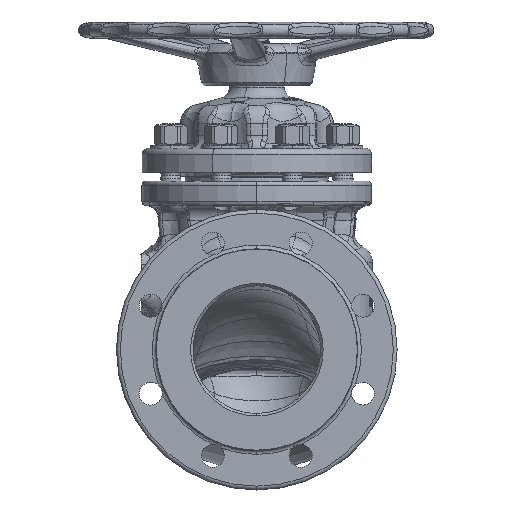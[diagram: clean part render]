
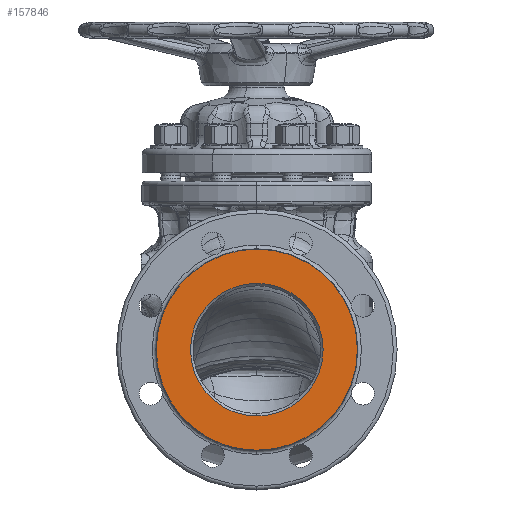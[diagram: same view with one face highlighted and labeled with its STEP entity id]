
A CAD part, left-side view. The second image highlights one B-rep face of the part: STEP entity #157846.
In plain terms, the highlighted planar face has unit normal (-1, 0, 0) by its records, which use the part's own axes.
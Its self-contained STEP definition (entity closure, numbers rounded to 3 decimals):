
#20838=CARTESIAN_POINT('',(-175.,0.,0.));
#20839=DIRECTION('',(-1.,0.,0.));
#20840=DIRECTION('',(0.,0.,1.));
#20841=AXIS2_PLACEMENT_3D('',#20838,#20839,#20840);
#20843=CARTESIAN_POINT('',(-175.,0.,0.));
#20844=DIRECTION('',(-1.,0.,0.));
#20845=DIRECTION('',(0.,0.,-1.));
#20846=AXIS2_PLACEMENT_3D('',#20843,#20844,#20845);
#20848=CARTESIAN_POINT('',(-175.,0.,0.));
#20849=DIRECTION('',(-1.,0.,0.));
#20850=DIRECTION('',(0.,0.,1.));
#20851=AXIS2_PLACEMENT_3D('',#20848,#20849,#20850);
#20853=CARTESIAN_POINT('',(-175.,0.,0.));
#20854=DIRECTION('',(-1.,0.,0.));
#20855=DIRECTION('',(0.,0.,-1.));
#20856=AXIS2_PLACEMENT_3D('',#20853,#20854,#20855);
#107563=CARTESIAN_POINT('',(-175.,0.,52.));
#107564=CARTESIAN_POINT('',(-175.,0.,-52.));
#107565=VERTEX_POINT('',#107563);
#107566=VERTEX_POINT('',#107564);
#108228=CARTESIAN_POINT('',(-175.,0.,78.837));
#108229=CARTESIAN_POINT('',(-175.,0.,-78.837));
#108230=VERTEX_POINT('',#108228);
#108231=VERTEX_POINT('',#108229);
#157830=CARTESIAN_POINT('',(-175.,0.,0.));
#157831=DIRECTION('',(-1.,0.,0.));
#157832=DIRECTION('',(0.,0.,1.));
#157833=AXIS2_PLACEMENT_3D('',#157830,#157831,#157832);
#157834=PLANE('',#157833);
#157836=ORIENTED_EDGE('',*,*,#157835,.F.);
#157838=ORIENTED_EDGE('',*,*,#157837,.F.);
#157839=EDGE_LOOP('',(#157836,#157838));
#157840=FACE_OUTER_BOUND('',#157839,.F.);
#157841=ORIENTED_EDGE('',*,*,#157816,.T.);
#157843=ORIENTED_EDGE('',*,*,#157842,.T.);
#157844=EDGE_LOOP('',(#157841,#157843));
#157845=FACE_BOUND('',#157844,.F.);
#157846=ADVANCED_FACE('',(#157840,#157845),#157834,.T.);
#20842=CIRCLE('',#20841,52.);
#20847=CIRCLE('',#20846,52.);
#20852=CIRCLE('',#20851,78.837);
#20857=CIRCLE('',#20856,78.837);
#157816=EDGE_CURVE('',#107565,#107566,#20842,.T.);
#157835=EDGE_CURVE('',#108230,#108231,#20852,.T.);
#157837=EDGE_CURVE('',#108231,#108230,#20857,.T.);
#157842=EDGE_CURVE('',#107566,#107565,#20847,.T.);
